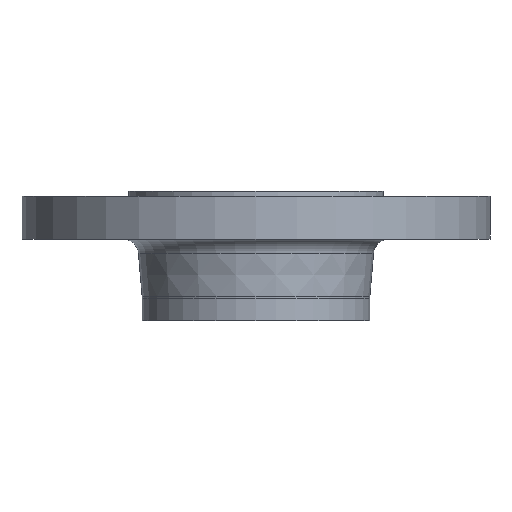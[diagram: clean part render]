
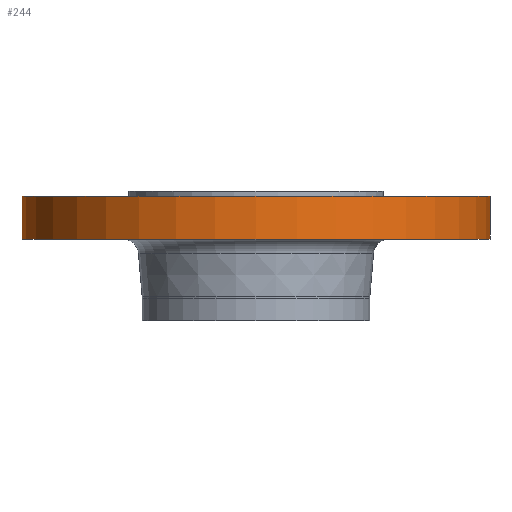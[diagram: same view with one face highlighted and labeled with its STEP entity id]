
A CAD part, front view. The second image highlights one B-rep face of the part: STEP entity #244.
In plain terms, the highlighted cylindrical face has radius 117.5 mm (diameter 235 mm), a partial arc.
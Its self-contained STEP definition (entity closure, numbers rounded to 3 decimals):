
#108 = CARTESIAN_POINT ( 'NONE',  ( -117.5, 0., -24. ) ) ;
#121 = CIRCLE ( 'NONE', #122, 117.5 ) ;
#122 = AXIS2_PLACEMENT_3D ( 'NONE', #408, #407, #405 ) ;
#123 = EDGE_CURVE ( 'NONE', #1021, #795, #512, .T. ) ;
#224 = CIRCLE ( 'NONE', #280, 117.5 ) ;
#244 = ADVANCED_FACE ( 'NONE', ( #869 ), #866, .T. ) ;
#273 = CARTESIAN_POINT ( 'NONE',  ( -117.5, 0., -2.5 ) ) ;
#280 = AXIS2_PLACEMENT_3D ( 'NONE', #344, #343, #342 ) ;
#303 = CARTESIAN_POINT ( 'NONE',  ( 117.5, 0., -24. ) ) ;
#314 = AXIS2_PLACEMENT_3D ( 'NONE', #558, #509, #508 ) ;
#331 = DIRECTION ( 'NONE',  ( 0., 0., 1. ) ) ;
#332 = CARTESIAN_POINT ( 'NONE',  ( 117.5, 0., -75. ) ) ;
#334 = LINE ( 'NONE', #332, #575 ) ;
#342 = DIRECTION ( 'NONE',  ( -1., 0., 0. ) ) ;
#343 = DIRECTION ( 'NONE',  ( 0., 0., -1. ) ) ;
#344 = CARTESIAN_POINT ( 'NONE',  ( 0., 0., -2.5 ) ) ;
#405 = DIRECTION ( 'NONE',  ( -1., 0., 0. ) ) ;
#407 = DIRECTION ( 'NONE',  ( 0., 0., -1. ) ) ;
#408 = CARTESIAN_POINT ( 'NONE',  ( 0., 0., -24. ) ) ;
#508 = DIRECTION ( 'NONE',  ( 1., 0., 0. ) ) ;
#509 = DIRECTION ( 'NONE',  ( 0., 0., 1. ) ) ;
#512 = LINE ( 'NONE', #554, #874 ) ;
#514 = DIRECTION ( 'NONE',  ( 0., 0., 1. ) ) ;
#554 = CARTESIAN_POINT ( 'NONE',  ( -117.5, 0., -75. ) ) ;
#558 = CARTESIAN_POINT ( 'NONE',  ( 0., 0., -75. ) ) ;
#575 = VECTOR ( 'NONE', #331, 1000. ) ;
#598 = EDGE_CURVE ( 'NONE', #741, #1021, #121, .T. ) ;
#630 = CARTESIAN_POINT ( 'NONE',  ( 117.5, 0., -2.5 ) ) ;
#680 = EDGE_CURVE ( 'NONE', #943, #795, #224, .T. ) ;
#687 = EDGE_CURVE ( 'NONE', #741, #943, #334, .T. ) ;
#741 = VERTEX_POINT ( 'NONE', #303 ) ;
#795 = VERTEX_POINT ( 'NONE', #273 ) ;
#866 = CYLINDRICAL_SURFACE ( 'NONE', #314, 117.5 ) ;
#869 = FACE_OUTER_BOUND ( 'NONE', #946, .T. ) ;
#874 = VECTOR ( 'NONE', #514, 1000. ) ;
#943 = VERTEX_POINT ( 'NONE', #630 ) ;
#946 = EDGE_LOOP ( 'NONE', ( #1123, #1125, #1126, #1128 ) ) ;
#1021 = VERTEX_POINT ( 'NONE', #108 ) ;
#1123 = ORIENTED_EDGE ( 'NONE', *, *, #123, .F. ) ;
#1125 = ORIENTED_EDGE ( 'NONE', *, *, #598, .F. ) ;
#1126 = ORIENTED_EDGE ( 'NONE', *, *, #687, .T. ) ;
#1128 = ORIENTED_EDGE ( 'NONE', *, *, #680, .T. ) ;
